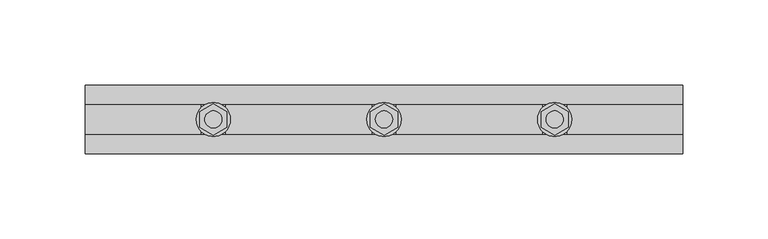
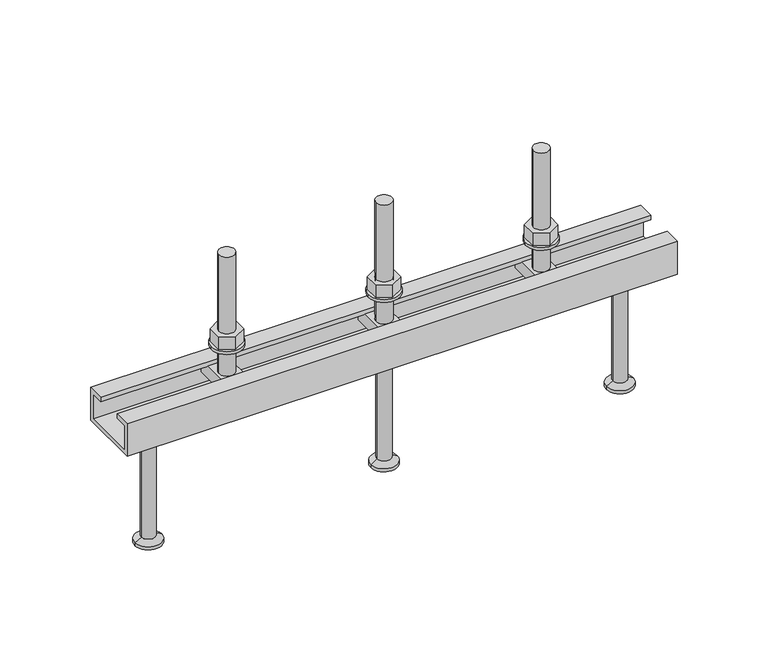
"""IFC4 building model written with IfcOpenShell, lengths in millimetres: fastener geometry, JTA-W JORDAHL® AnchorChannels : JTA-W L=350 mm."""

from ifc_helpers import new_model, si_unit, point, frame, frame_2d, origin, place, context, project, spatial, polyline, circle_curve, trimmed, segment, composite_curve, outline, extrude, source, transform, mapped, element, save
from ifc_brep_helpers import plane_surface, cylinder_surface, revolved_surface, advanced_brep


def fastener_d3d58a7e(model_context):
    return source(origin(), model_context, "Body", "SolidModel", [
        extrude(outline(polyline([(175.0, 9.2376043), (183.0, 4.6188022), (183.0, -4.6188022), (175.0, -9.2376043), (167.0, -4.6188022), (167.0, 4.6188022), (175.0, 9.2376043)]), holes=[composite_curve([segment(trimmed(circle_curve(frame_2d((175.0, 0.0)), 5.0), [point((170.0, 0.0))], [point((180.0, 0.0))], True, "CARTESIAN"), True, "CONTINUOUS"), segment(trimmed(circle_curve(frame_2d((175.0, 0.0)), 5.0), [point((180.0, 0.0))], [point((170.0, 0.0))], True, "CARTESIAN"), True, "CONTINUOUS")], self_intersect=False)]), frame((0.0, 0.0, 17.0), z_axis=(0.0, 0.0, 1.0), x_axis=(1.0, 0.0, 0.0)), (0.0, 0.0, 1.0), 8.4),
        extrude(outline(composite_curve([segment(trimmed(circle_curve(frame_2d((175.0, 0.0)), 10.0), [point((165.0, 0.0))], [point((185.0, 0.0))], False, "CARTESIAN"), True, "CONTINUOUS"), segment(trimmed(circle_curve(frame_2d((175.0, 0.0)), 10.0), [point((185.0, 0.0))], [point((165.0, 0.0))], False, "CARTESIAN"), True, "CONTINUOUS")], self_intersect=False), holes=[composite_curve([segment(trimmed(circle_curve(frame_2d((175.0, 0.0)), 5.25), [point((169.75, 0.0))], [point((180.25, 0.0))], True, "CARTESIAN"), True, "CONTINUOUS"), segment(trimmed(circle_curve(frame_2d((175.0, 0.0)), 5.25), [point((180.25, 0.0))], [point((169.75, 0.0))], True, "CARTESIAN"), True, "CONTINUOUS")], self_intersect=False)]), frame((0.0, 0.0, 15.0), z_axis=(0.0, 0.0, 1.0), x_axis=(1.0, 0.0, 0.0)), (0.0, 0.0, 1.0), 2.0),
        advanced_brep(
        [(182.0, 16.25, -3.0), (182.0, -16.25, -3.0), (182.0, -16.25, -11.0), (182.0, 16.25, -11.0), (168.0, 16.25, -3.0), (168.0, 16.25, -11.0), (168.0, -16.25, -11.0), (168.0, -16.25, -3.0), (180.0, 0.0, -3.0), (170.0, 0.0, -3.0), (170.0, 0.0, 77.0), (180.0, 0.0, 77.0)],
        [
            (0, 1),
            (1, 2),
            (2, 3),
            (3, 0),
            (4, 5),
            (5, 6),
            (6, 7),
            (7, 4),
            (0, 4),
            (7, 1),
            (8, 9, circle_curve(frame((175.0, 0.0, -3.0), z_axis=(0.0, 0.0, -1.0), x_axis=(1.0, 0.0, 0.0)), 5.0)),
            (9, 8, circle_curve(frame((175.0, 0.0, -3.0), z_axis=(0.0, 0.0, -1.0), x_axis=(1.0, 0.0, 0.0)), 5.0)),
            (6, 2),
            (5, 3),
            (10, 11, circle_curve(frame((175.0, 0.0, 77.0), z_axis=(0.0, 0.0, 1.0), x_axis=(1.0, 0.0, 0.0)), 5.0)),
            (11, 10, circle_curve(frame((175.0, 0.0, 77.0), z_axis=(0.0, 0.0, 1.0), x_axis=(1.0, 0.0, 0.0)), 5.0)),
            (10, 9),
            (8, 11),
        ],
        [
            plane_surface(frame((182.0, -16.25, -3.0), z_axis=(1.0, 0.0, 0.0), x_axis=(0.0, -1.0, 0.0))),
            plane_surface(frame((168.0, -16.25, -3.0), z_axis=(-1.0, 0.0, 0.0), x_axis=(0.0, 1.0, 0.0))),
            plane_surface(frame((182.0, 16.25, -3.0), z_axis=(0.0, 0.0, 1.0), x_axis=(-1.0, 0.0, 0.0))),
            plane_surface(frame((182.0, -16.25, -3.0), z_axis=(0.0, -1.0, 0.0), x_axis=(-1.0, 0.0, 0.0))),
            plane_surface(frame((182.0, -16.25, -11.0), z_axis=(0.0, 0.0, -1.0), x_axis=(-1.0, 0.0, 0.0))),
            plane_surface(frame((182.0, 16.25, -11.0), z_axis=(0.0, 1.0, 0.0), x_axis=(-1.0, 0.0, 0.0))),
            plane_surface(frame((180.0, 0.0, 77.0), z_axis=(0.0, 0.0, 1.0), x_axis=(0.0, 1.0, 0.0))),
            cylinder_surface(frame((175.0, 0.0, -3.0), z_axis=(0.0, 0.0, 1.0), x_axis=(1.0, 0.0, 0.0)), 5.0),
        ],
        [
            (0, [[1, 2, 3, 4]]),
            (1, [[5, 6, 7, 8]]),
            (2, [[-1, 9, -8, 10], [11, 12]]),
            (3, [[-2, -10, -7, 13]]),
            (4, [[-3, -13, -6, 14]]),
            (5, [[-4, -14, -5, -9]]),
            (6, [[15, 16]]),
            (7, [[-15, 17, -11, 18]]),
            (7, [[-16, -18, -12, -17]]),
        ],
    ),
        advanced_brep(
        [(175.0, 0.0, -22.0), (188.5, 0.0, -22.0), (161.5, 0.0, -22.0), (166.5, 0.0, -100.0), (183.5, 0.0, -100.0), (175.0, 0.0, -100.0), (166.5, 0.0, -98.0), (183.5, 0.0, -98.0), (170.5, 0.0, -95.6905989), (179.5, 0.0, -95.6905989), (170.5, 0.0, -24.5), (179.5, 0.0, -24.5)],
        [
            (0, 1),
            (1, 2, circle_curve(frame((175.0, 0.0, -22.0), z_axis=(0.0, 0.0, 1.0), x_axis=(1.0, 0.0, 0.0)), 13.5)),
            (2, 0),
            (2, 1, circle_curve(frame((175.0, 0.0, -22.0), z_axis=(0.0, 0.0, 1.0), x_axis=(1.0, 0.0, 0.0)), 13.5)),
            (3, 4, circle_curve(frame((175.0, 0.0, -100.0), z_axis=(0.0, 0.0, -1.0), x_axis=(1.0, 0.0, 0.0)), 8.5)),
            (4, 5),
            (5, 3),
            (4, 3, circle_curve(frame((175.0, 0.0, -100.0), z_axis=(0.0, 0.0, -1.0), x_axis=(1.0, 0.0, 0.0)), 8.5)),
            (6, 7, circle_curve(frame((175.0, 0.0, -98.0), z_axis=(0.0, 0.0, -1.0), x_axis=(1.0, 0.0, 0.0)), 8.5)),
            (7, 4),
            (3, 6),
            (7, 6, circle_curve(frame((175.0, 0.0, -98.0), z_axis=(0.0, 0.0, -1.0), x_axis=(1.0, 0.0, 0.0)), 8.5)),
            (8, 9, circle_curve(frame((175.0, 0.0, -95.6905989), z_axis=(0.0, 0.0, -1.0), x_axis=(1.0, 0.0, 0.0)), 4.5)),
            (9, 7),
            (6, 8),
            (9, 8, circle_curve(frame((175.0, 0.0, -95.6905989), z_axis=(0.0, 0.0, -1.0), x_axis=(1.0, 0.0, 0.0)), 4.5)),
            (10, 11, circle_curve(frame((175.0, 0.0, -24.5), z_axis=(0.0, 0.0, -1.0), x_axis=(1.0, 0.0, 0.0)), 4.5)),
            (11, 9),
            (8, 10),
            (11, 10, circle_curve(frame((175.0, 0.0, -24.5), z_axis=(0.0, 0.0, -1.0), x_axis=(1.0, 0.0, 0.0)), 4.5)),
            (1, 11),
            (10, 2),
        ],
        [
            plane_surface(frame((175.0, 0.0, -22.0), z_axis=(0.0, 0.0, 1.0), x_axis=(1.0, 0.0, 0.0))),
            plane_surface(frame((175.0, 0.0, -100.0), z_axis=(0.0, 0.0, -1.0), x_axis=(1.0, 0.0, 0.0))),
            cylinder_surface(frame((175.0, 0.0, 2292.3150031), z_axis=(0.0, 0.0, 1.0), x_axis=(1.0, 0.0, 0.0)), 8.5),
            revolved_surface(polyline([(183.5, 0.0, -98.0), (179.5, 0.0, -95.6905989)]), (175.0, 0.0, 2292.3150031), (0.0, 0.0, 1.0)),
            cylinder_surface(frame((175.0, 0.0, 2292.3150031), z_axis=(0.0, 0.0, 1.0), x_axis=(1.0, 0.0, 0.0)), 4.5),
            revolved_surface(polyline([(179.5, 0.0, -24.5), (188.5, 0.0, -22.0)]), (175.0, 0.0, 2292.3150031), (0.0, 0.0, 1.0)),
        ],
        [
            (0, [[1, 2, 3]]),
            (0, [[-3, 4, -1]]),
            (1, [[5, 6, 7]]),
            (1, [[8, -7, -6]]),
            (2, [[9, 10, -5, 11]]),
            (2, [[12, -11, -8, -10]]),
            (3, [[13, 14, -9, 15]]),
            (3, [[16, -15, -12, -14]]),
            (4, [[17, 18, -13, 19]]),
            (4, [[20, -19, -16, -18]]),
            (5, [[-2, 21, -17, 22]]),
            (5, [[-4, -22, -20, -21]]),
        ],
    ),
        extrude(outline(polyline([(275.0, 9.2376043), (283.0, 4.6188022), (283.0, -4.6188022), (275.0, -9.2376043), (267.0, -4.6188022), (267.0, 4.6188022), (275.0, 9.2376043)]), holes=[composite_curve([segment(trimmed(circle_curve(frame_2d((275.0, 0.0)), 5.0), [point((270.0, 0.0))], [point((280.0, 0.0))], True, "CARTESIAN"), True, "CONTINUOUS"), segment(trimmed(circle_curve(frame_2d((275.0, 0.0)), 5.0), [point((280.0, 0.0))], [point((270.0, 0.0))], True, "CARTESIAN"), True, "CONTINUOUS")], self_intersect=False)]), frame((0.0, 0.0, 17.0), z_axis=(0.0, 0.0, 1.0), x_axis=(1.0, 0.0, 0.0)), (0.0, 0.0, 1.0), 8.4),
        extrude(outline(composite_curve([segment(trimmed(circle_curve(frame_2d((275.0, 0.0)), 10.0), [point((265.0, 0.0))], [point((285.0, 0.0))], False, "CARTESIAN"), True, "CONTINUOUS"), segment(trimmed(circle_curve(frame_2d((275.0, 0.0)), 10.0), [point((285.0, 0.0))], [point((265.0, 0.0))], False, "CARTESIAN"), True, "CONTINUOUS")], self_intersect=False), holes=[composite_curve([segment(trimmed(circle_curve(frame_2d((275.0, 0.0)), 5.25), [point((269.75, 0.0))], [point((280.25, 0.0))], True, "CARTESIAN"), True, "CONTINUOUS"), segment(trimmed(circle_curve(frame_2d((275.0, 0.0)), 5.25), [point((280.25, 0.0))], [point((269.75, 0.0))], True, "CARTESIAN"), True, "CONTINUOUS")], self_intersect=False)]), frame((0.0, 0.0, 15.0), z_axis=(0.0, 0.0, 1.0), x_axis=(1.0, 0.0, 0.0)), (0.0, 0.0, 1.0), 2.0),
        extrude(outline(polyline([(75.0, 9.2376043), (83.0, 4.6188022), (83.0, -4.6188022), (75.0, -9.2376043), (67.0, -4.6188022), (67.0, 4.6188022), (75.0, 9.2376043)]), holes=[composite_curve([segment(trimmed(circle_curve(frame_2d((75.0, 0.0)), 5.0), [point((70.0, 0.0))], [point((80.0, 0.0))], True, "CARTESIAN"), True, "CONTINUOUS"), segment(trimmed(circle_curve(frame_2d((75.0, 0.0)), 5.0), [point((80.0, 0.0))], [point((70.0, 0.0))], True, "CARTESIAN"), True, "CONTINUOUS")], self_intersect=False)]), frame((0.0, 0.0, 17.0), z_axis=(0.0, 0.0, 1.0), x_axis=(1.0, 0.0, 0.0)), (0.0, 0.0, 1.0), 8.4),
        extrude(outline(composite_curve([segment(trimmed(circle_curve(frame_2d((75.0, 0.0)), 10.0), [point((65.0, 0.0))], [point((85.0, 0.0))], False, "CARTESIAN"), True, "CONTINUOUS"), segment(trimmed(circle_curve(frame_2d((75.0, 0.0)), 10.0), [point((85.0, 0.0))], [point((65.0, 0.0))], False, "CARTESIAN"), True, "CONTINUOUS")], self_intersect=False), holes=[composite_curve([segment(trimmed(circle_curve(frame_2d((75.0, 0.0)), 5.25), [point((69.75, 0.0))], [point((80.25, 0.0))], True, "CARTESIAN"), True, "CONTINUOUS"), segment(trimmed(circle_curve(frame_2d((75.0, 0.0)), 5.25), [point((80.25, 0.0))], [point((69.75, 0.0))], True, "CARTESIAN"), True, "CONTINUOUS")], self_intersect=False)]), frame((0.0, 0.0, 15.0), z_axis=(0.0, 0.0, 1.0), x_axis=(1.0, 0.0, 0.0)), (0.0, 0.0, 1.0), 2.0),
        advanced_brep(
        [(282.0, 16.25, -3.0), (282.0, -16.25, -3.0), (282.0, -16.25, -11.0), (282.0, 16.25, -11.0), (268.0, 16.25, -3.0), (268.0, 16.25, -11.0), (268.0, -16.25, -11.0), (268.0, -16.25, -3.0), (280.0, 0.0, -3.0), (270.0, 0.0, -3.0), (270.0, 0.0, 77.0), (280.0, 0.0, 77.0)],
        [
            (0, 1),
            (1, 2),
            (2, 3),
            (3, 0),
            (4, 5),
            (5, 6),
            (6, 7),
            (7, 4),
            (0, 4),
            (7, 1),
            (8, 9, circle_curve(frame((275.0, 0.0, -3.0), z_axis=(0.0, 0.0, -1.0), x_axis=(1.0, 0.0, 0.0)), 5.0)),
            (9, 8, circle_curve(frame((275.0, 0.0, -3.0), z_axis=(0.0, 0.0, -1.0), x_axis=(1.0, 0.0, 0.0)), 5.0)),
            (6, 2),
            (5, 3),
            (10, 11, circle_curve(frame((275.0, 0.0, 77.0), z_axis=(0.0, 0.0, 1.0), x_axis=(1.0, 0.0, 0.0)), 5.0)),
            (11, 10, circle_curve(frame((275.0, 0.0, 77.0), z_axis=(0.0, 0.0, 1.0), x_axis=(1.0, 0.0, 0.0)), 5.0)),
            (10, 9),
            (8, 11),
        ],
        [
            plane_surface(frame((282.0, -16.25, -3.0), z_axis=(1.0, 0.0, 0.0), x_axis=(0.0, -1.0, 0.0))),
            plane_surface(frame((268.0, -16.25, -3.0), z_axis=(-1.0, 0.0, 0.0), x_axis=(0.0, 1.0, 0.0))),
            plane_surface(frame((282.0, 16.25, -3.0), z_axis=(0.0, 0.0, 1.0), x_axis=(-1.0, 0.0, 0.0))),
            plane_surface(frame((282.0, -16.25, -3.0), z_axis=(0.0, -1.0, 0.0), x_axis=(-1.0, 0.0, 0.0))),
            plane_surface(frame((282.0, -16.25, -11.0), z_axis=(0.0, 0.0, -1.0), x_axis=(-1.0, 0.0, 0.0))),
            plane_surface(frame((282.0, 16.25, -11.0), z_axis=(0.0, 1.0, 0.0), x_axis=(-1.0, 0.0, 0.0))),
            plane_surface(frame((280.0, 0.0, 77.0), z_axis=(0.0, 0.0, 1.0), x_axis=(0.0, 1.0, 0.0))),
            cylinder_surface(frame((275.0, 0.0, -3.0), z_axis=(0.0, 0.0, 1.0), x_axis=(1.0, 0.0, 0.0)), 5.0),
        ],
        [
            (0, [[1, 2, 3, 4]]),
            (1, [[5, 6, 7, 8]]),
            (2, [[-1, 9, -8, 10], [11, 12]]),
            (3, [[-2, -10, -7, 13]]),
            (4, [[-3, -13, -6, 14]]),
            (5, [[-4, -14, -5, -9]]),
            (6, [[15, 16]]),
            (7, [[-15, 17, -11, 18]]),
            (7, [[-16, -18, -12, -17]]),
        ],
    ),
        advanced_brep(
        [(82.0, 16.25, -3.0), (82.0, -16.25, -3.0), (82.0, -16.25, -11.0), (82.0, 16.25, -11.0), (68.0, 16.25, -3.0), (68.0, 16.25, -11.0), (68.0, -16.25, -11.0), (68.0, -16.25, -3.0), (80.0, 0.0, -3.0), (70.0, 0.0, -3.0), (70.0, 0.0, 77.0), (80.0, 0.0, 77.0)],
        [
            (0, 1),
            (1, 2),
            (2, 3),
            (3, 0),
            (4, 5),
            (5, 6),
            (6, 7),
            (7, 4),
            (0, 4),
            (7, 1),
            (8, 9, circle_curve(frame((75.0, 0.0, -3.0), z_axis=(0.0, 0.0, -1.0), x_axis=(1.0, 0.0, 0.0)), 5.0)),
            (9, 8, circle_curve(frame((75.0, 0.0, -3.0), z_axis=(0.0, 0.0, -1.0), x_axis=(1.0, 0.0, 0.0)), 5.0)),
            (6, 2),
            (5, 3),
            (10, 11, circle_curve(frame((75.0, 0.0, 77.0), z_axis=(0.0, 0.0, 1.0), x_axis=(1.0, 0.0, 0.0)), 5.0)),
            (11, 10, circle_curve(frame((75.0, 0.0, 77.0), z_axis=(0.0, 0.0, 1.0), x_axis=(1.0, 0.0, 0.0)), 5.0)),
            (10, 9),
            (8, 11),
        ],
        [
            plane_surface(frame((82.0, -16.25, -3.0), z_axis=(1.0, 0.0, 0.0), x_axis=(0.0, -1.0, 0.0))),
            plane_surface(frame((68.0, -16.25, -3.0), z_axis=(-1.0, 0.0, 0.0), x_axis=(0.0, 1.0, 0.0))),
            plane_surface(frame((82.0, 16.25, -3.0), z_axis=(0.0, 0.0, 1.0), x_axis=(-1.0, 0.0, 0.0))),
            plane_surface(frame((82.0, -16.25, -3.0), z_axis=(0.0, -1.0, 0.0), x_axis=(-1.0, 0.0, 0.0))),
            plane_surface(frame((82.0, -16.25, -11.0), z_axis=(0.0, 0.0, -1.0), x_axis=(-1.0, 0.0, 0.0))),
            plane_surface(frame((82.0, 16.25, -11.0), z_axis=(0.0, 1.0, 0.0), x_axis=(-1.0, 0.0, 0.0))),
            plane_surface(frame((80.0, 0.0, 77.0), z_axis=(0.0, 0.0, 1.0), x_axis=(0.0, 1.0, 0.0))),
            cylinder_surface(frame((75.0, 0.0, -3.0), z_axis=(0.0, 0.0, 1.0), x_axis=(1.0, 0.0, 0.0)), 5.0),
        ],
        [
            (0, [[1, 2, 3, 4]]),
            (1, [[5, 6, 7, 8]]),
            (2, [[-1, 9, -8, 10], [11, 12]]),
            (3, [[-2, -10, -7, 13]]),
            (4, [[-3, -13, -6, 14]]),
            (5, [[-4, -14, -5, -9]]),
            (6, [[15, 16]]),
            (7, [[-15, 17, -11, 18]]),
            (7, [[-16, -18, -12, -17]]),
        ],
    ),
        advanced_brep(
        [(325.0, 0.0, -22.0), (338.5, 0.0, -22.0), (311.5, 0.0, -22.0), (316.5, 0.0, -100.0), (333.5, 0.0, -100.0), (325.0, 0.0, -100.0), (316.5, 0.0, -98.0), (333.5, 0.0, -98.0), (320.5, 0.0, -95.6905989), (329.5, 0.0, -95.6905989), (320.5, 0.0, -24.5), (329.5, 0.0, -24.5)],
        [
            (0, 1),
            (1, 2, circle_curve(frame((325.0, 0.0, -22.0), z_axis=(0.0, 0.0, 1.0), x_axis=(1.0, 0.0, 0.0)), 13.5)),
            (2, 0),
            (2, 1, circle_curve(frame((325.0, 0.0, -22.0), z_axis=(0.0, 0.0, 1.0), x_axis=(1.0, 0.0, 0.0)), 13.5)),
            (3, 4, circle_curve(frame((325.0, 0.0, -100.0), z_axis=(0.0, 0.0, -1.0), x_axis=(1.0, 0.0, 0.0)), 8.5)),
            (4, 5),
            (5, 3),
            (4, 3, circle_curve(frame((325.0, 0.0, -100.0), z_axis=(0.0, 0.0, -1.0), x_axis=(1.0, 0.0, 0.0)), 8.5)),
            (6, 7, circle_curve(frame((325.0, 0.0, -98.0), z_axis=(0.0, 0.0, -1.0), x_axis=(1.0, 0.0, 0.0)), 8.5)),
            (7, 4),
            (3, 6),
            (7, 6, circle_curve(frame((325.0, 0.0, -98.0), z_axis=(0.0, 0.0, -1.0), x_axis=(1.0, 0.0, 0.0)), 8.5)),
            (8, 9, circle_curve(frame((325.0, 0.0, -95.6905989), z_axis=(0.0, 0.0, -1.0), x_axis=(1.0, 0.0, 0.0)), 4.5)),
            (9, 7),
            (6, 8),
            (9, 8, circle_curve(frame((325.0, 0.0, -95.6905989), z_axis=(0.0, 0.0, -1.0), x_axis=(1.0, 0.0, 0.0)), 4.5)),
            (10, 11, circle_curve(frame((325.0, 0.0, -24.5), z_axis=(0.0, 0.0, -1.0), x_axis=(1.0, 0.0, 0.0)), 4.5)),
            (11, 9),
            (8, 10),
            (11, 10, circle_curve(frame((325.0, 0.0, -24.5), z_axis=(0.0, 0.0, -1.0), x_axis=(1.0, 0.0, 0.0)), 4.5)),
            (1, 11),
            (10, 2),
        ],
        [
            plane_surface(frame((325.0, 0.0, -22.0), z_axis=(0.0, 0.0, 1.0), x_axis=(1.0, 0.0, 0.0))),
            plane_surface(frame((325.0, 0.0, -100.0), z_axis=(0.0, 0.0, -1.0), x_axis=(1.0, 0.0, 0.0))),
            cylinder_surface(frame((325.0, 0.0, 2292.3150031), z_axis=(0.0, 0.0, 1.0), x_axis=(1.0, 0.0, 0.0)), 8.5),
            revolved_surface(polyline([(333.5, 0.0, -98.0), (329.5, 0.0, -95.6905989)]), (325.0, 0.0, 2292.3150031), (0.0, 0.0, 1.0)),
            cylinder_surface(frame((325.0, 0.0, 2292.3150031), z_axis=(0.0, 0.0, 1.0), x_axis=(1.0, 0.0, 0.0)), 4.5),
            revolved_surface(polyline([(329.5, 0.0, -24.5), (338.5, 0.0, -22.0)]), (325.0, 0.0, 2292.3150031), (0.0, 0.0, 1.0)),
        ],
        [
            (0, [[1, 2, 3]]),
            (0, [[-3, 4, -1]]),
            (1, [[5, 6, 7]]),
            (1, [[8, -7, -6]]),
            (2, [[9, 10, -5, 11]]),
            (2, [[12, -11, -8, -10]]),
            (3, [[13, 14, -9, 15]]),
            (3, [[16, -15, -12, -14]]),
            (4, [[17, 18, -13, 19]]),
            (4, [[20, -19, -16, -18]]),
            (5, [[-2, 21, -17, 22]]),
            (5, [[-4, -22, -20, -21]]),
        ],
    ),
        advanced_brep(
        [(25.0, 0.0, -22.0), (38.5, 0.0, -22.0), (11.5, 0.0, -22.0), (16.5, 0.0, -100.0), (33.5, 0.0, -100.0), (25.0, 0.0, -100.0), (16.5, 0.0, -98.0), (33.5, 0.0, -98.0), (20.5, 0.0, -95.6905989), (29.5, 0.0, -95.6905989), (20.5, 0.0, -24.5), (29.5, 0.0, -24.5)],
        [
            (0, 1),
            (1, 2, circle_curve(frame((25.0, 0.0, -22.0), z_axis=(0.0, 0.0, 1.0), x_axis=(1.0, 0.0, 0.0)), 13.5)),
            (2, 0),
            (2, 1, circle_curve(frame((25.0, 0.0, -22.0), z_axis=(0.0, 0.0, 1.0), x_axis=(1.0, 0.0, 0.0)), 13.5)),
            (3, 4, circle_curve(frame((25.0, 0.0, -100.0), z_axis=(0.0, 0.0, -1.0), x_axis=(1.0, 0.0, 0.0)), 8.5)),
            (4, 5),
            (5, 3),
            (4, 3, circle_curve(frame((25.0, 0.0, -100.0), z_axis=(0.0, 0.0, -1.0), x_axis=(1.0, 0.0, 0.0)), 8.5)),
            (6, 7, circle_curve(frame((25.0, 0.0, -98.0), z_axis=(0.0, 0.0, -1.0), x_axis=(1.0, 0.0, 0.0)), 8.5)),
            (7, 4),
            (3, 6),
            (7, 6, circle_curve(frame((25.0, 0.0, -98.0), z_axis=(0.0, 0.0, -1.0), x_axis=(1.0, 0.0, 0.0)), 8.5)),
            (8, 9, circle_curve(frame((25.0, 0.0, -95.6905989), z_axis=(0.0, 0.0, -1.0), x_axis=(1.0, 0.0, 0.0)), 4.5)),
            (9, 7),
            (6, 8),
            (9, 8, circle_curve(frame((25.0, 0.0, -95.6905989), z_axis=(0.0, 0.0, -1.0), x_axis=(1.0, 0.0, 0.0)), 4.5)),
            (10, 11, circle_curve(frame((25.0, 0.0, -24.5), z_axis=(0.0, 0.0, -1.0), x_axis=(1.0, 0.0, 0.0)), 4.5)),
            (11, 9),
            (8, 10),
            (11, 10, circle_curve(frame((25.0, 0.0, -24.5), z_axis=(0.0, 0.0, -1.0), x_axis=(1.0, 0.0, 0.0)), 4.5)),
            (1, 11),
            (10, 2),
        ],
        [
            plane_surface(frame((25.0, 0.0, -22.0), z_axis=(0.0, 0.0, 1.0), x_axis=(1.0, 0.0, 0.0))),
            plane_surface(frame((25.0, 0.0, -100.0), z_axis=(0.0, 0.0, -1.0), x_axis=(1.0, 0.0, 0.0))),
            cylinder_surface(frame((25.0, 0.0, 2292.3150031), z_axis=(0.0, 0.0, 1.0), x_axis=(1.0, 0.0, 0.0)), 8.5),
            revolved_surface(polyline([(33.5, 0.0, -98.0), (29.5, 0.0, -95.6905989)]), (25.0, 0.0, 2292.3150031), (0.0, 0.0, 1.0)),
            cylinder_surface(frame((25.0, 0.0, 2292.3150031), z_axis=(0.0, 0.0, 1.0), x_axis=(1.0, 0.0, 0.0)), 4.5),
            revolved_surface(polyline([(29.5, 0.0, -24.5), (38.5, 0.0, -22.0)]), (25.0, 0.0, 2292.3150031), (0.0, 0.0, 1.0)),
        ],
        [
            (0, [[1, 2, 3]]),
            (0, [[-3, 4, -1]]),
            (1, [[5, 6, 7]]),
            (1, [[8, -7, -6]]),
            (2, [[9, 10, -5, 11]]),
            (2, [[12, -11, -8, -10]]),
            (3, [[13, 14, -9, 15]]),
            (3, [[16, -15, -12, -14]]),
            (4, [[17, 18, -13, 19]]),
            (4, [[20, -19, -16, -18]]),
            (5, [[-2, 21, -17, 22]]),
            (5, [[-4, -22, -20, -21]]),
        ],
    ),
        extrude(outline(polyline([(20.0, 0.0), (20.0, -22.0), (-20.0, -22.0), (-20.0, 0.0), (-9.0, 0.0), (-9.0, -3.0), (-17.5, -3.0), (-17.5, -19.5), (17.5, -19.5), (17.5, -3.0), (9.0, -3.0), (9.0, 0.0), (20.0, 0.0)])), frame((0.0, 0.0, 0.0), z_axis=(1.0, 0.0, 0.0), x_axis=(0.0, 1.0, 0.0)), (0.0, 0.0, 1.0), 350.0),
    ])


if __name__ == "__main__":
    model = new_model("IFC4")
    model_context = context("Model", 3, world=origin())
    ifc_project = project(units=[si_unit("LENGTHUNIT", "METRE", prefix="MILLI")], contexts=[model_context])
    site = spatial("IfcSite", under=ifc_project)
    building = spatial("IfcBuilding", under=site)
    placement = place(None, origin())
    fastener_shape = fastener_d3d58a7e(model_context)
    element("IfcFastener", 1, ObjectType="JTA-W JORDAHL® AnchorChannels : JTA-W L=350 mm", at=placement, inside=building, context=model_context, shape_type="MappedRepresentation", body=[
        mapped(fastener_shape, transform((0.0, 0.0, 0.0), x_axis=(1.0, 0.0, 0.0), y_axis=(0.0, 1.0, 0.0), z_axis=(0.0, 0.0, 1.0))),
    ])
    save(model, "model.ifc")
